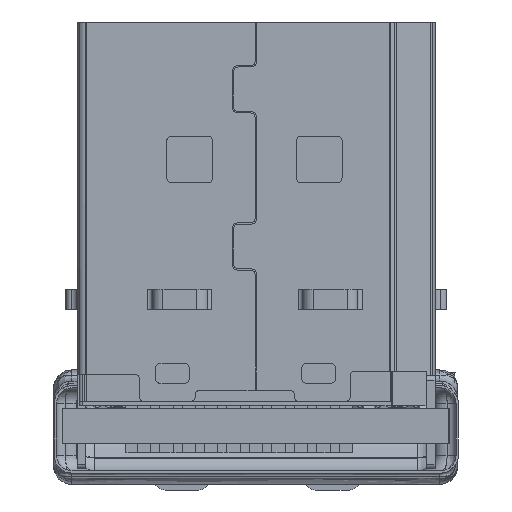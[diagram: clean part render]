
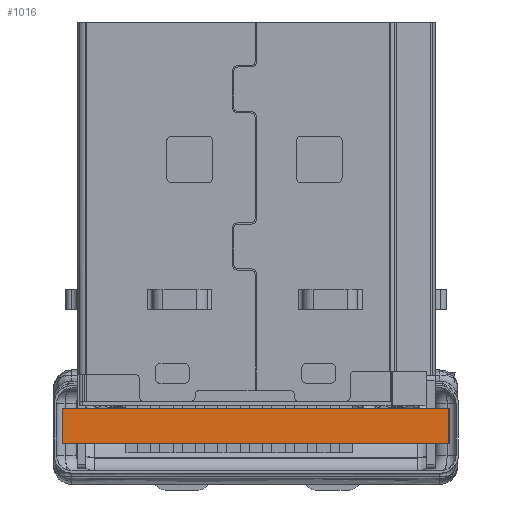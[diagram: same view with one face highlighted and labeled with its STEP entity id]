
A CAD part, front view. The second image highlights one B-rep face of the part: STEP entity #1016.
In plain terms, the highlighted planar face has unit normal (0, -1, 0).
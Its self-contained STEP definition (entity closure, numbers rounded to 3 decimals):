
#69 = EDGE_CURVE('',#70,#72,#74,.T.);
#70 = VERTEX_POINT('',#71);
#71 = CARTESIAN_POINT('',(-8.609,-46.904,0.));
#72 = VERTEX_POINT('',#73);
#73 = CARTESIAN_POINT('',(-8.609,-46.904,1.6));
#74 = LINE('',#75,#76);
#75 = CARTESIAN_POINT('',(-8.609,-46.904,0.));
#76 = VECTOR('',#77,1.);
#77 = DIRECTION('',(0.,0.,1.));
#991 = VERTEX_POINT('',#992);
#992 = CARTESIAN_POINT('',(8.598,-46.911,1.6));
#998 = EDGE_CURVE('',#999,#991,#1001,.T.);
#999 = VERTEX_POINT('',#1000);
#1000 = CARTESIAN_POINT('',(8.598,-46.911,0.));
#1001 = LINE('',#1002,#1003);
#1002 = CARTESIAN_POINT('',(8.598,-46.911,0.));
#1003 = VECTOR('',#1004,1.);
#1004 = DIRECTION('',(0.,0.,1.));
#1016 = ADVANCED_FACE('',(#1017),#1033,.T.);
#1017 = FACE_BOUND('',#1018,.T.);
#1018 = EDGE_LOOP('',(#1019,#1020,#1026,#1027));
#1019 = ORIENTED_EDGE('',*,*,#998,.T.);
#1020 = ORIENTED_EDGE('',*,*,#1021,.T.);
#1021 = EDGE_CURVE('',#991,#72,#1022,.T.);
#1022 = LINE('',#1023,#1024);
#1023 = CARTESIAN_POINT('',(8.598,-46.911,1.6));
#1024 = VECTOR('',#1025,1.);
#1025 = DIRECTION('',(-1.,0.,0.));
#1026 = ORIENTED_EDGE('',*,*,#69,.F.);
#1027 = ORIENTED_EDGE('',*,*,#1028,.F.);
#1028 = EDGE_CURVE('',#999,#70,#1029,.T.);
#1029 = LINE('',#1030,#1031);
#1030 = CARTESIAN_POINT('',(8.598,-46.911,0.));
#1031 = VECTOR('',#1032,1.);
#1032 = DIRECTION('',(-1.,0.,0.));
#1033 = PLANE('',#1034);
#1034 = AXIS2_PLACEMENT_3D('',#1035,#1036,#1037);
#1035 = CARTESIAN_POINT('',(8.598,-46.911,0.));
#1036 = DIRECTION('',(0.,-1.,0.));
#1037 = DIRECTION('',(-1.,0.,0.));
